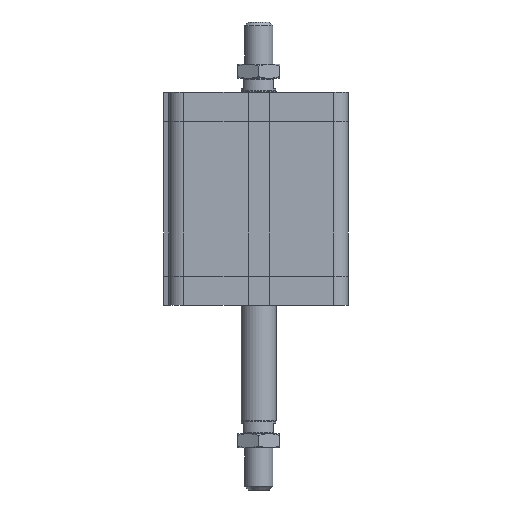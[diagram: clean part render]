
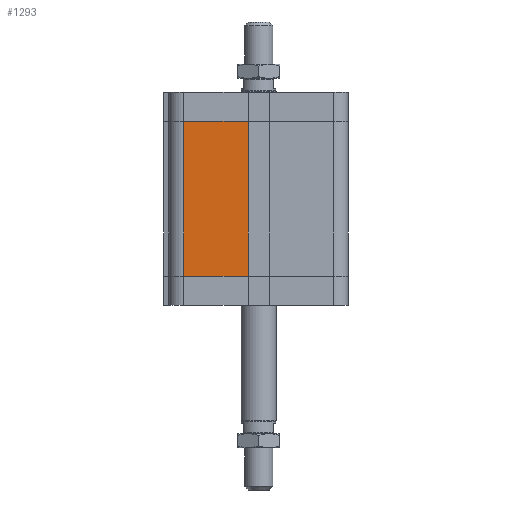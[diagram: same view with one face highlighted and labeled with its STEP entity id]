
A CAD part, left-side view. The second image highlights one B-rep face of the part: STEP entity #1293.
In plain terms, the highlighted planar face has unit normal (-1, 0, 0).
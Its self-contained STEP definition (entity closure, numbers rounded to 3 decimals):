
#1204=CARTESIAN_POINT('',(-51.0,42.5,16.5));
#1205=VERTEX_POINT('',#1204);
#1213=CARTESIAN_POINT('',(-51.0,42.5,104.5));
#1214=VERTEX_POINT('',#1213);
#1215=CARTESIAN_POINT('',(-51.0,42.5,16.5));
#1216=DIRECTION('',(0.0,0.0,1.0));
#1217=VECTOR('',#1216,88.0);
#1218=LINE('',#1215,#1217);
#1219=EDGE_CURVE('',#1205,#1214,#1218,.T.);
#1263=CARTESIAN_POINT('',(-51.,6.,0.0));
#1264=DIRECTION('',(-1.0,0.0,0.0));
#1265=DIRECTION('',(0.0,0.0,1.0));
#1266=AXIS2_PLACEMENT_3D('',#1263,#1264,#1265);
#1267=PLANE('',#1266);
#1268=CARTESIAN_POINT('',(-51.,6.,16.5));
#1269=VERTEX_POINT('',#1268);
#1270=CARTESIAN_POINT('',(-51.0,42.5,16.5));
#1271=DIRECTION('',(0.0,-1.0,0.0));
#1272=VECTOR('',#1271,36.5);
#1273=LINE('',#1270,#1272);
#1274=EDGE_CURVE('',#1205,#1269,#1273,.T.);
#1275=ORIENTED_EDGE('',*,*,#1274,.T.);
#1276=CARTESIAN_POINT('',(-51.,6.,104.5));
#1277=VERTEX_POINT('',#1276);
#1278=CARTESIAN_POINT('',(-51.,6.,16.5));
#1279=DIRECTION('',(0.0,0.0,1.0));
#1280=VECTOR('',#1279,88.0);
#1281=LINE('',#1278,#1280);
#1282=EDGE_CURVE('',#1269,#1277,#1281,.T.);
#1283=ORIENTED_EDGE('',*,*,#1282,.T.);
#1284=CARTESIAN_POINT('',(-51.0,42.5,104.5));
#1285=DIRECTION('',(0.0,-1.0,0.0));
#1286=VECTOR('',#1285,36.5);
#1287=LINE('',#1284,#1286);
#1288=EDGE_CURVE('',#1214,#1277,#1287,.T.);
#1289=ORIENTED_EDGE('',*,*,#1288,.F.);
#1290=ORIENTED_EDGE('',*,*,#1219,.F.);
#1291=EDGE_LOOP('',(#1275,#1283,#1289,#1290));
#1292=FACE_OUTER_BOUND('',#1291,.T.);
#1293=ADVANCED_FACE('',(#1292),#1267,.T.);
